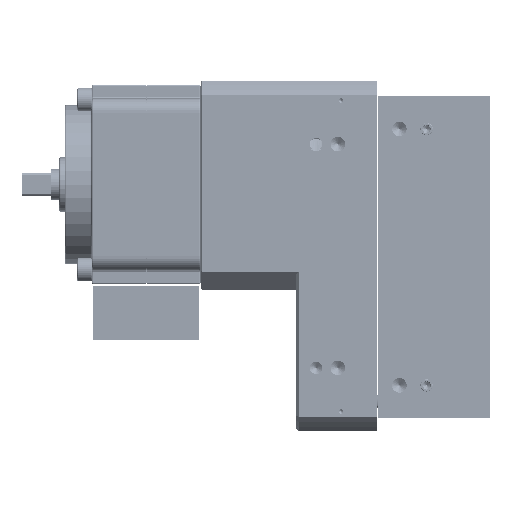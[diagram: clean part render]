
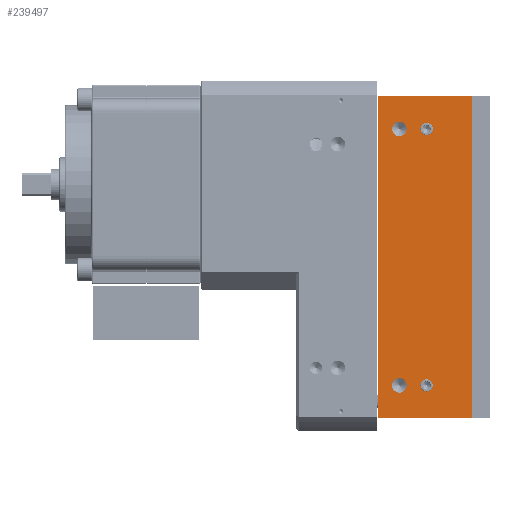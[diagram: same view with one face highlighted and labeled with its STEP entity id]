
A CAD part, left-side view. The second image highlights one B-rep face of the part: STEP entity #239497.
In plain terms, the highlighted planar face has unit normal (-1, 0, 0).
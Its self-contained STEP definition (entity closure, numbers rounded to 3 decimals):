
#2824 = EDGE_LOOP ( 'NONE', ( #259764, #126400 ) ) ;
#3901 = DIRECTION ( 'NONE',  ( 0., -1., 0. ) ) ;
#7648 = DIRECTION ( 'NONE',  ( 0., 0., 1. ) ) ;
#10266 = FACE_BOUND ( 'NONE', #217292, .T. ) ;
#12330 = ORIENTED_EDGE ( 'NONE', *, *, #59095, .F. ) ;
#17869 = AXIS2_PLACEMENT_3D ( 'NONE', #205598, #177652, #182055 ) ;
#28772 = AXIS2_PLACEMENT_3D ( 'NONE', #228346, #247520, #157775 ) ;
#28779 = CARTESIAN_POINT ( 'NONE',  ( -48., 50., 66.75 ) ) ;
#30542 = CARTESIAN_POINT ( 'NONE',  ( -48., 62., -88.75 ) ) ;
#34291 = DIRECTION ( 'NONE',  ( -1., 0., 0. ) ) ;
#36585 = DIRECTION ( 'NONE',  ( 0., 0., 1. ) ) ;
#38980 = ORIENTED_EDGE ( 'NONE', *, *, #121251, .F. ) ;
#39218 = PLANE ( 'NONE',  #189319 ) ;
#45361 = EDGE_LOOP ( 'NONE', ( #287940, #272736, #91962, #241478 ) ) ;
#49268 = ORIENTED_EDGE ( 'NONE', *, *, #56823, .F. ) ;
#50508 = AXIS2_PLACEMENT_3D ( 'NONE', #86899, #88378, #128211 ) ;
#56823 = EDGE_CURVE ( 'NONE', #245512, #81989, #105687, .T. ) ;
#59095 = EDGE_CURVE ( 'NONE', #81989, #245512, #234141, .T. ) ;
#61920 = DIRECTION ( 'NONE',  ( 0., 0., 1. ) ) ;
#62918 = ORIENTED_EDGE ( 'NONE', *, *, #134755, .F. ) ;
#63532 = CARTESIAN_POINT ( 'NONE',  ( -48., 35., 67.35 ) ) ;
#70343 = VERTEX_POINT ( 'NONE', #116305 ) ;
#74781 = CIRCLE ( 'NONE', #281631, 3.4 ) ;
#75714 = VERTEX_POINT ( 'NONE', #116101 ) ;
#78218 = DIRECTION ( 'NONE',  ( -1., 0., 0. ) ) ;
#81242 = EDGE_CURVE ( 'NONE', #187842, #115808, #252592, .T. ) ;
#81743 = CARTESIAN_POINT ( 'NONE',  ( -48., 10., -88.75 ) ) ;
#81989 = VERTEX_POINT ( 'NONE', #121536 ) ;
#83624 = DIRECTION ( 'NONE',  ( -1., 0., 0. ) ) ;
#85096 = DIRECTION ( 'NONE',  ( 0., 0., 1. ) ) ;
#85905 = LINE ( 'NONE', #105075, #201723 ) ;
#86899 = CARTESIAN_POINT ( 'NONE',  ( -48., 50., -70.75 ) ) ;
#87553 = VECTOR ( 'NONE', #61920, 1000. ) ;
#87749 = DIRECTION ( 'NONE',  ( 1., 0., 0. ) ) ;
#88378 = DIRECTION ( 'NONE',  ( -1., 0., 0. ) ) ;
#91962 = ORIENTED_EDGE ( 'NONE', *, *, #81242, .F. ) ;
#93717 = VERTEX_POINT ( 'NONE', #28779 ) ;
#97251 = AXIS2_PLACEMENT_3D ( 'NONE', #120656, #285228, #85096 ) ;
#104272 = CARTESIAN_POINT ( 'NONE',  ( -48., 10., 88.75 ) ) ;
#105075 = CARTESIAN_POINT ( 'NONE',  ( -48., 10., -88.75 ) ) ;
#105687 = CIRCLE ( 'NONE', #195097, 3.4 ) ;
#105709 = CARTESIAN_POINT ( 'NONE',  ( -48., 35., -70.75 ) ) ;
#108206 = CARTESIAN_POINT ( 'NONE',  ( -48., 50., -66.75 ) ) ;
#109329 = VERTEX_POINT ( 'NONE', #272594 ) ;
#110373 = ORIENTED_EDGE ( 'NONE', *, *, #270956, .F. ) ;
#114479 = EDGE_LOOP ( 'NONE', ( #149441, #38980 ) ) ;
#115808 = VERTEX_POINT ( 'NONE', #104272 ) ;
#116101 = CARTESIAN_POINT ( 'NONE',  ( -48., 35., -67.35 ) ) ;
#116305 = CARTESIAN_POINT ( 'NONE',  ( -48., 35., -74.15 ) ) ;
#116489 = CARTESIAN_POINT ( 'NONE',  ( -48., 62., -88.75 ) ) ;
#120240 = VECTOR ( 'NONE', #236595, 1000. ) ;
#120656 = CARTESIAN_POINT ( 'NONE',  ( -48., 50., -70.75 ) ) ;
#121251 = EDGE_CURVE ( 'NONE', #70343, #75714, #284945, .T. ) ;
#121536 = CARTESIAN_POINT ( 'NONE',  ( -48., 35., 74.15 ) ) ;
#126400 = ORIENTED_EDGE ( 'NONE', *, *, #171669, .F. ) ;
#128211 = DIRECTION ( 'NONE',  ( 0., 0., 1. ) ) ;
#134755 = EDGE_CURVE ( 'NONE', #109329, #168785, #215696, .T. ) ;
#144157 = AXIS2_PLACEMENT_3D ( 'NONE', #105709, #83624, #36585 ) ;
#145296 = AXIS2_PLACEMENT_3D ( 'NONE', #284350, #34291, #285828 ) ;
#149441 = ORIENTED_EDGE ( 'NONE', *, *, #159336, .F. ) ;
#151179 = DIRECTION ( 'NONE',  ( 0., 0., -1. ) ) ;
#157775 = DIRECTION ( 'NONE',  ( 0., 0., 1. ) ) ;
#159336 = EDGE_CURVE ( 'NONE', #75714, #70343, #74781, .T. ) ;
#168785 = VERTEX_POINT ( 'NONE', #108206 ) ;
#171669 = EDGE_CURVE ( 'NONE', #93717, #279731, #272021, .T. ) ;
#174608 = EDGE_CURVE ( 'NONE', #279731, #93717, #221493, .T. ) ;
#174653 = VERTEX_POINT ( 'NONE', #116489 ) ;
#175772 = DIRECTION ( 'NONE',  ( 0., 0., 1. ) ) ;
#177652 = DIRECTION ( 'NONE',  ( -1., 0., 0. ) ) ;
#178254 = EDGE_CURVE ( 'NONE', #174653, #232562, #211667, .T. ) ;
#182055 = DIRECTION ( 'NONE',  ( 0., 0., 1. ) ) ;
#187842 = VERTEX_POINT ( 'NONE', #247000 ) ;
#189319 = AXIS2_PLACEMENT_3D ( 'NONE', #220315, #87749, #151179 ) ;
#195097 = AXIS2_PLACEMENT_3D ( 'NONE', #278327, #78218, #7648 ) ;
#196817 = FACE_BOUND ( 'NONE', #114479, .T. ) ;
#198659 = VECTOR ( 'NONE', #3901, 1000. ) ;
#201723 = VECTOR ( 'NONE', #175772, 1000. ) ;
#205598 = CARTESIAN_POINT ( 'NONE',  ( -48., 35., 70.75 ) ) ;
#211667 = LINE ( 'NONE', #30542, #120240 ) ;
#215696 = CIRCLE ( 'NONE', #50508, 4. ) ;
#217292 = EDGE_LOOP ( 'NONE', ( #110373, #62918 ) ) ;
#218824 = FACE_BOUND ( 'NONE', #249767, .T. ) ;
#219318 = CIRCLE ( 'NONE', #97251, 4. ) ;
#220315 = CARTESIAN_POINT ( 'NONE',  ( -48., 62., 0. ) ) ;
#220930 = CARTESIAN_POINT ( 'NONE',  ( -48., 62., 0. ) ) ;
#221493 = CIRCLE ( 'NONE', #28772, 4. ) ;
#225748 = CARTESIAN_POINT ( 'NONE',  ( -48., 50., 74.75 ) ) ;
#228346 = CARTESIAN_POINT ( 'NONE',  ( -48., 50., 70.75 ) ) ;
#232562 = VERTEX_POINT ( 'NONE', #81743 ) ;
#234141 = CIRCLE ( 'NONE', #17869, 3.4 ) ;
#236595 = DIRECTION ( 'NONE',  ( 0., -1., 0. ) ) ;
#239497 = ADVANCED_FACE ( 'NONE', ( #240960, #10266, #196817, #218824, #267273 ), #39218, .F. ) ;
#240960 = FACE_BOUND ( 'NONE', #2824, .T. ) ;
#241478 = ORIENTED_EDGE ( 'NONE', *, *, #270753, .F. ) ;
#241991 = CARTESIAN_POINT ( 'NONE',  ( -48., 35., -70.75 ) ) ;
#244945 = DIRECTION ( 'NONE',  ( 0., 0., 1. ) ) ;
#245512 = VERTEX_POINT ( 'NONE', #63532 ) ;
#247000 = CARTESIAN_POINT ( 'NONE',  ( -48., 62., 88.75 ) ) ;
#247520 = DIRECTION ( 'NONE',  ( -1., 0., 0. ) ) ;
#249767 = EDGE_LOOP ( 'NONE', ( #12330, #49268 ) ) ;
#252592 = LINE ( 'NONE', #273189, #198659 ) ;
#259764 = ORIENTED_EDGE ( 'NONE', *, *, #174608, .F. ) ;
#263481 = LINE ( 'NONE', #220930, #87553 ) ;
#263945 = DIRECTION ( 'NONE',  ( -1., 0., 0. ) ) ;
#267273 = FACE_OUTER_BOUND ( 'NONE', #45361, .T. ) ;
#270753 = EDGE_CURVE ( 'NONE', #174653, #187842, #263481, .T. ) ;
#270956 = EDGE_CURVE ( 'NONE', #168785, #109329, #219318, .T. ) ;
#272021 = CIRCLE ( 'NONE', #145296, 4. ) ;
#272594 = CARTESIAN_POINT ( 'NONE',  ( -48., 50., -74.75 ) ) ;
#272736 = ORIENTED_EDGE ( 'NONE', *, *, #282986, .T. ) ;
#273189 = CARTESIAN_POINT ( 'NONE',  ( -48., 62., 88.75 ) ) ;
#278327 = CARTESIAN_POINT ( 'NONE',  ( -48., 35., 70.75 ) ) ;
#279731 = VERTEX_POINT ( 'NONE', #225748 ) ;
#281631 = AXIS2_PLACEMENT_3D ( 'NONE', #241991, #263945, #244945 ) ;
#282986 = EDGE_CURVE ( 'NONE', #232562, #115808, #85905, .T. ) ;
#284350 = CARTESIAN_POINT ( 'NONE',  ( -48., 50., 70.75 ) ) ;
#284945 = CIRCLE ( 'NONE', #144157, 3.4 ) ;
#285228 = DIRECTION ( 'NONE',  ( -1., 0., 0. ) ) ;
#285828 = DIRECTION ( 'NONE',  ( 0., 0., 1. ) ) ;
#287940 = ORIENTED_EDGE ( 'NONE', *, *, #178254, .T. ) ;
